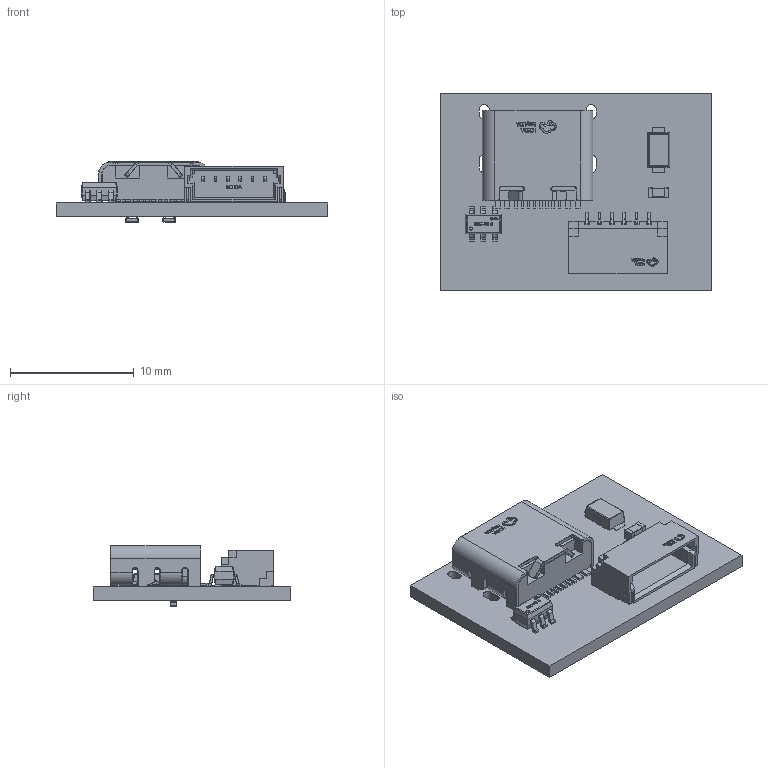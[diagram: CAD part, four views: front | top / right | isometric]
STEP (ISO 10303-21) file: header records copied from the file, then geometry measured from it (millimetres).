
FILE_DESCRIPTION(('KiCad electronic assembly'),'2;1');
FILE_NAME('layercam-usb.step','2026-10-26T22:36:03',('Pcbnew'),('Kicad') ,'Open CASCADE STEP processor 7.8','KiCad to STEP converter','Unknown' );
FILE_SCHEMA(('AUTOMOTIVE_DESIGN { 1 0 10303 214 1 1 1 1 }'));
Length unit declared in the file: millimetre
Products named in the file (14): layercam-usb 1; SOD-123FL_L2.8-W1.8-LS3.7-BI; SOT-23-6_L2.9-W1.6-H1.5-LS2.8-P0.95; C_0603_1608Metric; CONN-SMD_SR1.00-WS-6P; USB-C_SMD-TYPE-C-31-M-12_1; USB-C_SMD-TYPE-C-31-M-12; R_0402_1005Metric; layercam-usb_PCB
Assembly tree (14 placements, depth 3):
  layercam-usb 1
    SOD-123FL_L2.8-W1.8-LS3.7-BI
      SOD-123FL_L2.8-W1.8-LS3.7-BI
    SOT-23-6_L2.9-W1.6-H1.5-LS2.8-P0.95
      SOT-23-6_L2.9-W1.6-H1.5-LS2.8-P0.95
    C_0603_1608Metric
      C_0603_1608Metric
    CONN-SMD_SR1.00-WS-6P
      CONN-SMD_SR1.00-WS-6P
    USB-C_SMD-TYPE-C-31-M-12_1
      USB-C_SMD-TYPE-C-31-M-12
    R_0402_1005Metric  x2
      R_0402_1005Metric
    layercam-usb_PCB
Bounding box: 22 x 16 x 4.9 mm (x, y, z)
Volume: 582.6 mm3; surface area: 1476.5 mm2
Topology: 53 solids, 53 shells, 2428 faces, 6158 edges, 3898 vertices
Faces by surface type: plane 1323, bspline 490, cylinder 391, torus 176, sphere 42, revolution 6
Full cylindrical faces by diameter (mm): 0.6 x2
Entity records: 96090 total; most frequent: CARTESIAN_POINT 23967, ORIENTED_EDGE 12152, DIRECTION 9858, EDGE_CURVE 6076, LINE 4038, VECTOR 4038, VERTEX_POINT 3854, AXIS2_PLACEMENT_3D 2907
